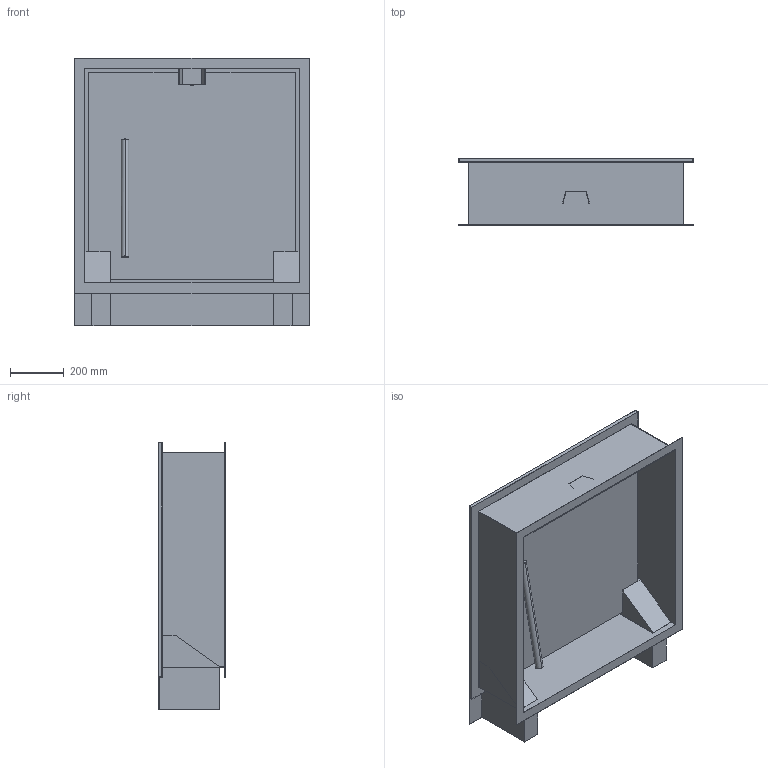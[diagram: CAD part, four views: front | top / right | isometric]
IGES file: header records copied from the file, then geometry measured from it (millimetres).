
Start section:  PTC IGES file: 51553732.igs
Global section: file name: 51553732.igs; native system: Creo Parametric by PTC Inc.; preprocessor: 2019224; author: gm; organization: Unknown; date: 20210623.141433; units: millimetre
Bounding box: 878 x 250 x 1000 mm (x, y, z)
Surface area: 4198905.5 mm2 (no closed solid volume)
Topology: 0 solids, 0 shells, 80 faces, 432 edges, 432 vertices
Faces by surface type: bspline 72, revolution 8
